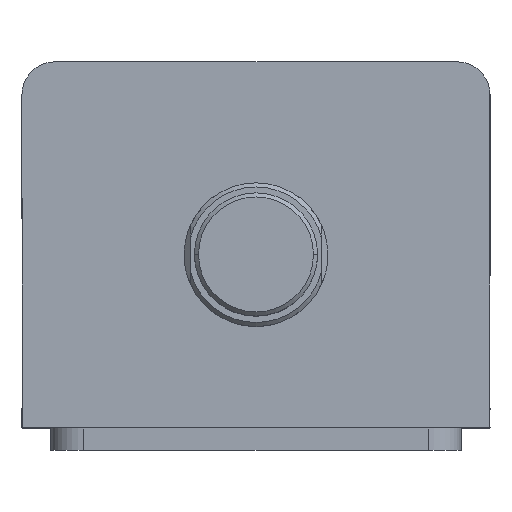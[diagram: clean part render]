
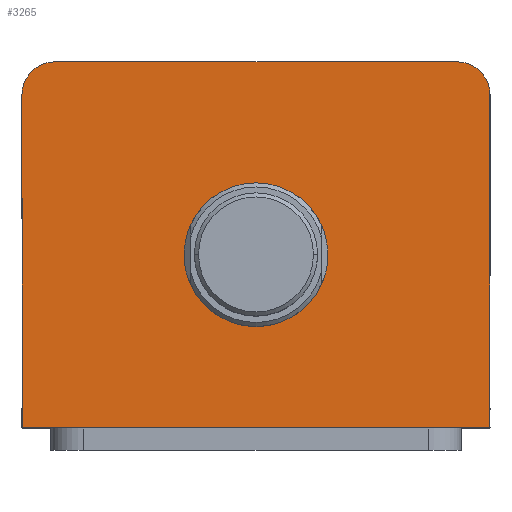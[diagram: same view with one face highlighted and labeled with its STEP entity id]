
A CAD part, top view. The second image highlights one B-rep face of the part: STEP entity #3265.
In plain terms, the highlighted planar face has unit normal (0, 0, 1).
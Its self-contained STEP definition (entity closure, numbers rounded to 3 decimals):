
#68 = PLANE ( 'NONE',  #2765 ) ;
#71 = DIRECTION ( 'NONE',  ( 0., 0., 1. ) ) ;
#85 = CARTESIAN_POINT ( 'NONE',  ( 0., 0., 162. ) ) ;
#93 = DIRECTION ( 'NONE',  ( 1., 0., 0. ) ) ;
#219 = CIRCLE ( 'NONE', #2600, 17.5 ) ;
#274 = ORIENTED_EDGE ( 'NONE', *, *, #2487, .T. ) ;
#275 = ORIENTED_EDGE ( 'NONE', *, *, #2453, .T. ) ;
#277 = ORIENTED_EDGE ( 'NONE', *, *, #2359, .T. ) ;
#295 = ORIENTED_EDGE ( 'NONE', *, *, #2341, .F. ) ;
#296 = ORIENTED_EDGE ( 'NONE', *, *, #1571, .F. ) ;
#347 = CARTESIAN_POINT ( 'NONE',  ( 57., -44.5, 162. ) ) ;
#369 = DIRECTION ( 'NONE',  ( 1., 0., 0. ) ) ;
#370 = DIRECTION ( 'NONE',  ( 0., 0., 1. ) ) ;
#372 = CARTESIAN_POINT ( 'NONE',  ( 0., -2.5, 162. ) ) ;
#433 = DIRECTION ( 'NONE',  ( 1., 0., 0. ) ) ;
#434 = DIRECTION ( 'NONE',  ( 0., 0., 1. ) ) ;
#435 = CARTESIAN_POINT ( 'NONE',  ( 49., 36.5, 162. ) ) ;
#492 = CARTESIAN_POINT ( 'NONE',  ( 57., 44.5, 162. ) ) ;
#495 = DIRECTION ( 'NONE',  ( 0., 1., 0. ) ) ;
#502 = DIRECTION ( 'NONE',  ( 1., 0., 0. ) ) ;
#508 = CARTESIAN_POINT ( 'NONE',  ( -57., -44.5, 162. ) ) ;
#547 = CARTESIAN_POINT ( 'NONE',  ( -57., 36.5, 162. ) ) ;
#551 = CARTESIAN_POINT ( 'NONE',  ( 57., 36.5, 162. ) ) ;
#575 = CARTESIAN_POINT ( 'NONE',  ( -49., 44.5, 162. ) ) ;
#579 = CARTESIAN_POINT ( 'NONE',  ( 49., 44.5, 162. ) ) ;
#594 = CARTESIAN_POINT ( 'NONE',  ( -57., -44.5, 162. ) ) ;
#597 = CARTESIAN_POINT ( 'NONE',  ( 17.5, -2.5, 162. ) ) ;
#598 = CARTESIAN_POINT ( 'NONE',  ( -17.5, -2.5, 162. ) ) ;
#906 = DIRECTION ( 'NONE',  ( 1., 0., 0. ) ) ;
#907 = DIRECTION ( 'NONE',  ( 0., 0., 1. ) ) ;
#909 = CARTESIAN_POINT ( 'NONE',  ( 0., -2.5, 162. ) ) ;
#1070 = LINE ( 'NONE', #508, #1073 ) ;
#1073 = VECTOR ( 'NONE', #502, 1000. ) ;
#1075 = LINE ( 'NONE', #492, #1079 ) ;
#1079 = VECTOR ( 'NONE', #495, 1000. ) ;
#1099 = CIRCLE ( 'NONE', #2641, 8. ) ;
#1117 = CIRCLE ( 'NONE', #2649, 17.5 ) ;
#1138 = LINE ( 'NONE', #3518, #1142 ) ;
#1142 = VECTOR ( 'NONE', #3530, 1000. ) ;
#1249 = CIRCLE ( 'NONE', #2691, 8. ) ;
#1285 = LINE ( 'NONE', #3169, #1303 ) ;
#1303 = VECTOR ( 'NONE', #3183, 1000. ) ;
#1456 = FACE_BOUND ( 'NONE', #1934, .T. ) ;
#1461 = FACE_OUTER_BOUND ( 'NONE', #1904, .T. ) ;
#1571 = EDGE_CURVE ( 'NONE', #1816, #1815, #219, .T. ) ;
#1812 = VERTEX_POINT ( 'NONE', #347 ) ;
#1815 = VERTEX_POINT ( 'NONE', #598 ) ;
#1816 = VERTEX_POINT ( 'NONE', #597 ) ;
#1818 = VERTEX_POINT ( 'NONE', #594 ) ;
#1832 = VERTEX_POINT ( 'NONE', #579 ) ;
#1835 = VERTEX_POINT ( 'NONE', #575 ) ;
#1855 = VERTEX_POINT ( 'NONE', #551 ) ;
#1858 = VERTEX_POINT ( 'NONE', #547 ) ;
#1904 = EDGE_LOOP ( 'NONE', ( #274, #275, #277, #2179, #2180, #2171 ) ) ;
#1934 = EDGE_LOOP ( 'NONE', ( #296, #295 ) ) ;
#2171 = ORIENTED_EDGE ( 'NONE', *, *, #2305, .T. ) ;
#2179 = ORIENTED_EDGE ( 'NONE', *, *, #2259, .T. ) ;
#2180 = ORIENTED_EDGE ( 'NONE', *, *, #2263, .T. ) ;
#2259 = EDGE_CURVE ( 'NONE', #1818, #1812, #1070, .T. ) ;
#2263 = EDGE_CURVE ( 'NONE', #1812, #1855, #1075, .T. ) ;
#2305 = EDGE_CURVE ( 'NONE', #1855, #1832, #1099, .T. ) ;
#2341 = EDGE_CURVE ( 'NONE', #1815, #1816, #1117, .T. ) ;
#2359 = EDGE_CURVE ( 'NONE', #1858, #1818, #1138, .T. ) ;
#2453 = EDGE_CURVE ( 'NONE', #1835, #1858, #1249, .T. ) ;
#2487 = EDGE_CURVE ( 'NONE', #1832, #1835, #1285, .T. ) ;
#2600 = AXIS2_PLACEMENT_3D ( 'NONE', #909, #907, #906 ) ;
#2641 = AXIS2_PLACEMENT_3D ( 'NONE', #435, #434, #433 ) ;
#2649 = AXIS2_PLACEMENT_3D ( 'NONE', #372, #370, #369 ) ;
#2691 = AXIS2_PLACEMENT_3D ( 'NONE', #3196, #3191, #3184 ) ;
#2765 = AXIS2_PLACEMENT_3D ( 'NONE', #85, #71, #93 ) ;
#3169 = CARTESIAN_POINT ( 'NONE',  ( -57., 44.5, 162. ) ) ;
#3183 = DIRECTION ( 'NONE',  ( -1., 0., 0. ) ) ;
#3184 = DIRECTION ( 'NONE',  ( 1., 0., 0. ) ) ;
#3191 = DIRECTION ( 'NONE',  ( 0., 0., 1. ) ) ;
#3196 = CARTESIAN_POINT ( 'NONE',  ( -49., 36.5, 162. ) ) ;
#3265 = ADVANCED_FACE ( 'NONE', ( #1456, #1461 ), #68, .T. ) ;
#3518 = CARTESIAN_POINT ( 'NONE',  ( -57., 44.5, 162. ) ) ;
#3530 = DIRECTION ( 'NONE',  ( 0., -1., 0. ) ) ;
